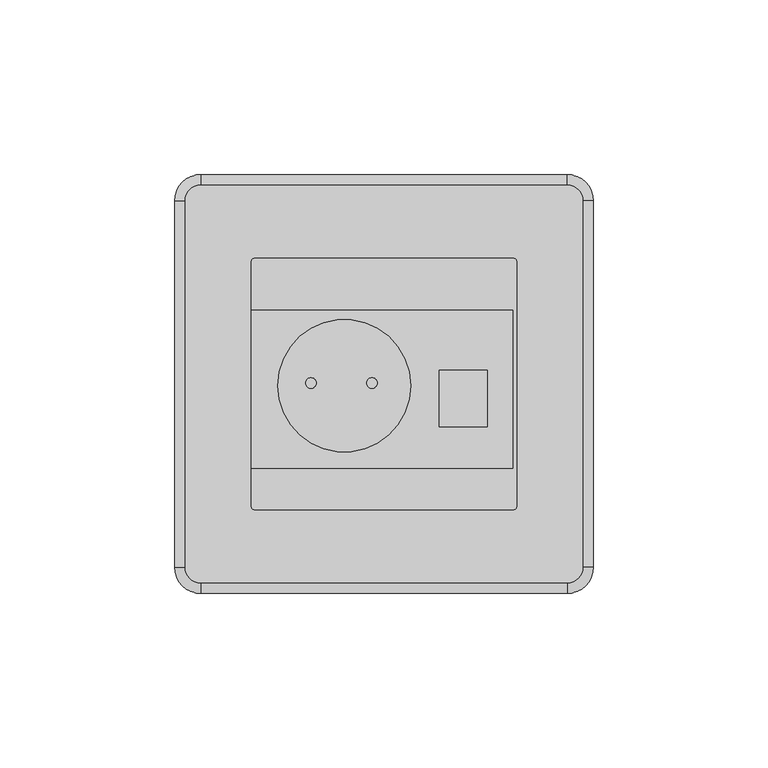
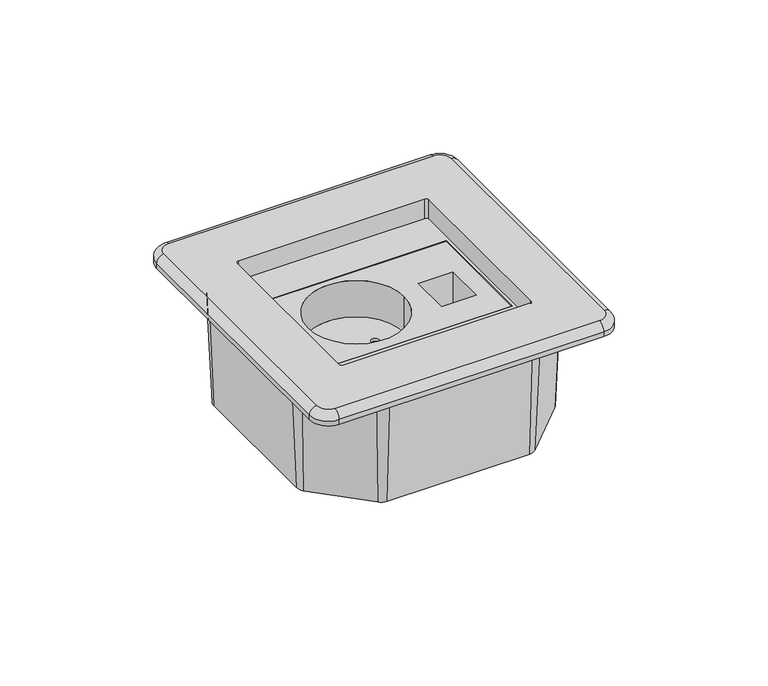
"""IFC4 building model written with IfcOpenShell, lengths in millimetres: proxy geometry, Electrical_Installation_Hager_VE-EE_Floor-socket-square-with-wing-opening : Floor socket square single a. RJ45 bronze."""

import ifcopenshell
import ifcopenshell.guid

model = None  # the IFC model being written
_history = None  # IfcOwnerHistory: only IFC2X3 demands one
_inside = {}  # id of a spatial element -> (the spatial element, [elements in it])
_under = {}  # id of a project, library or spatial element -> (it, [spatial elements below it])
_declared = {}  # id of a project -> (the project, [libraries it declares])
_typed = {}  # id of a type object -> (the type object, [elements of that type])
_made_of = {}  # id of a material, layer set ... -> (it, [elements and type objects made of it])


def new_model(schema):
    """Start an empty IFC model of exactly this schema.

    Asked for "IFC4X3", IfcOpenShell would pick the latest addendum, in which some entities
    have other attributes; the version numbers below select the first issue.
    IFC2X3 requires an IfcOwnerHistory on every rooted entity: one is made here for all.
    """
    global model, _history
    if schema == "IFC4X3":
        model = ifcopenshell.file(schema_version=(4, 3, 0, 0))
    else:
        model = ifcopenshell.file(schema=schema)
    _inside.clear()
    _under.clear()
    _declared.clear()
    _typed.clear()
    _made_of.clear()
    _history = None
    if model.schema == "IFC2X3":
        org = make("IfcOrganization", Name="unknown")
        user = make(
            "IfcPersonAndOrganization",
            ThePerson=make("IfcPerson", FamilyName="unknown"),
            TheOrganization=org,
        )
        app = make(
            "IfcApplication",
            ApplicationDeveloper=org,
            Version="unknown",
            ApplicationFullName="unknown",
            ApplicationIdentifier="unknown",
        )
        _history = make(
            "IfcOwnerHistory",
            OwningUser=user,
            OwningApplication=app,
            ChangeAction="ADDED",
            CreationDate=0,
        )
    return model


def make(cls, **values):
    """One entity of the class cls with the attributes given. An attribute that is None is left unset."""
    return model.create_entity(
        cls, **{name: value for name, value in values.items() if value is not None}
    )


def rooted(cls, **values):
    """An entity with a GlobalId (a new one), such as an element, a storey or a relation."""
    return make(cls, GlobalId=ifcopenshell.guid.new(), OwnerHistory=_history, **values)


def si_unit(unit_type, name, prefix=None):
    """IfcSIUnit, for example si_unit("LENGTHUNIT", "METRE", prefix="MILLI")."""
    return make("IfcSIUnit", UnitType=unit_type, Prefix=prefix, Name=name)


def assignment(units):
    """IfcUnitAssignment: the units of a project."""
    return None if units is None else make("IfcUnitAssignment", Units=units)


def point(xyz):
    """IfcCartesianPoint."""
    return None if xyz is None else make("IfcCartesianPoint", Coordinates=xyz)


def direction(xyz):
    """IfcDirection."""
    return None if xyz is None else make("IfcDirection", DirectionRatios=xyz)


def frame(location, z_axis=None, x_axis=None):
    """IfcAxis2Placement3D, a coordinate frame: its origin and axes. An axis left out is left unset."""
    return make(
        "IfcAxis2Placement3D",
        Location=point(location),
        Axis=direction(z_axis),
        RefDirection=direction(x_axis),
    )


def frame_2d(location, x_axis=None):
    """IfcAxis2Placement2D, a coordinate frame in the plane: its origin and x axis."""
    return make(
        "IfcAxis2Placement2D", Location=point(location), RefDirection=direction(x_axis)
    )


def origin():
    """The frame at (0, 0, 0) with its axes left unset."""
    return frame((0.0, 0.0, 0.0))


def place(relative_to, where):
    """IfcLocalPlacement: puts the frame where relative to a parent placement (None: the world)."""
    return make(
        "IfcLocalPlacement", PlacementRelTo=relative_to, RelativePlacement=where
    )


def context(
    kind, dimensions, precision=None, world=None, true_north=None, identifier=None
):
    """IfcGeometricRepresentationContext, for example the 3D "Model" context."""
    return make(
        "IfcGeometricRepresentationContext",
        ContextIdentifier=identifier,
        ContextType=kind,
        CoordinateSpaceDimension=dimensions,
        Precision=precision,
        WorldCoordinateSystem=world,
        TrueNorth=true_north,
    )


def project(units=None, contexts=None):
    """IfcProject with its units and contexts."""
    return rooted(
        "IfcProject",
        Name="project",
        RepresentationContexts=contexts,
        UnitsInContext=assignment(units),
    )


def spatial(cls, under=None, at=None, **own):
    """A site, building, storey or space (cls), placed at a placement, below another one or the project."""
    s = rooted(cls, ObjectPlacement=at, **own)
    if under is not None:
        _under.setdefault(under.id(), (under, []))[1].append(s)
    return s


def polyline(points):
    """IfcPolyline through the points."""
    return make("IfcPolyline", Points=[point(p) for p in points])


def circle_curve(where, radius):
    """IfcCircle in the frame where."""
    return make("IfcCircle", Position=where, Radius=radius)


def ellipse_curve(where, semi_axis1, semi_axis2):
    """IfcEllipse in the frame where."""
    return make(
        "IfcEllipse", Position=where, SemiAxis1=semi_axis1, SemiAxis2=semi_axis2
    )


def trimmed(basis, trim1, trim2, sense, master):
    """IfcTrimmedCurve: the piece of a basis curve between two trims."""
    return make(
        "IfcTrimmedCurve",
        BasisCurve=basis,
        Trim1=trim1,
        Trim2=trim2,
        SenseAgreement=sense,
        MasterRepresentation=master,
    )


def segment(curve, same_sense, transition):
    """IfcCompositeCurveSegment."""
    return make(
        "IfcCompositeCurveSegment",
        Transition=transition,
        SameSense=same_sense,
        ParentCurve=curve,
    )


def composite_curve(segments, self_intersect=None):
    """IfcCompositeCurve: segments joined end to end."""
    return make("IfcCompositeCurve", Segments=segments, SelfIntersect=self_intersect)


def outline(outer, holes=None, kind="AREA"):
    """IfcArbitraryClosedProfileDef: a profile drawn as a closed curve; with holes, ...WithVoids."""
    if holes is None:
        return make("IfcArbitraryClosedProfileDef", ProfileType=kind, OuterCurve=outer)
    return make(
        "IfcArbitraryProfileDefWithVoids",
        ProfileType=kind,
        OuterCurve=outer,
        InnerCurves=holes,
    )


def extrude(swept, where, along, depth):
    """IfcExtrudedAreaSolid: the profile swept, set in the frame where, extruded along a direction by depth."""
    return make(
        "IfcExtrudedAreaSolid",
        SweptArea=swept,
        Position=where,
        ExtrudedDirection=direction(along),
        Depth=depth,
    )


def shape(context_of_items, identifier, shape_type, items):
    """IfcShapeRepresentation: the items that make up one representation, for example the "Body"."""
    return make(
        "IfcShapeRepresentation",
        ContextOfItems=context_of_items,
        RepresentationIdentifier=identifier,
        RepresentationType=shape_type,
        Items=items,
    )


def source(mapping_origin, context_of_items, identifier, shape_type, items):
    """IfcRepresentationMap: a shape defined once, which mapped items show again and again."""
    return make(
        "IfcRepresentationMap",
        MappingOrigin=mapping_origin,
        MappedRepresentation=shape(context_of_items, identifier, shape_type, items),
    )


def transform(
    local_origin,
    x_axis=None,
    y_axis=None,
    z_axis=None,
    scale=None,
    scale2=None,
    scale3=None,
    uniform=True,
):
    """IfcCartesianTransformationOperator3D, or its non-uniform kind. x_axis, y_axis, z_axis: its Axis1, 2, 3."""
    if uniform:
        return make(
            "IfcCartesianTransformationOperator3D",
            Axis1=direction(x_axis),
            Axis2=direction(y_axis),
            LocalOrigin=point(local_origin),
            Scale=scale,
            Axis3=direction(z_axis),
        )
    return make(
        "IfcCartesianTransformationOperator3DnonUniform",
        Axis1=direction(x_axis),
        Axis2=direction(y_axis),
        LocalOrigin=point(local_origin),
        Scale=scale,
        Axis3=direction(z_axis),
        Scale2=scale2,
        Scale3=scale3,
    )


def mapped(mapping_source, mapping_target):
    """IfcMappedItem: shows the shape of a source again, moved by a transform."""
    return make(
        "IfcMappedItem", MappingSource=mapping_source, MappingTarget=mapping_target
    )


def made_of(thing, what):
    """Note that an element or type object is made of a material, layer set ...; save() writes the relation."""
    if what is not None:
        _made_of.setdefault(what.id(), (what, []))[1].append(thing)
    return thing


def element(
    cls,
    number,
    at=None,
    inside=None,
    cuts=None,
    type_object=None,
    material=None,
    context=None,
    identifier="Body",
    shape_type=None,
    held_by="IfcProductDefinitionShape",
    body=None,
    shapes=None,
    **own,
):
    """One element of the class cls, such as IfcWall. Its Tag is "e" and its number.

    at: its placement. inside: the storey or other place that contains it. cuts: it is an
    opening in that element (IfcRelVoidsElement). A single representation is given by context,
    identifier, shape_type and body (its items); several are given by shapes. held_by: the class
    of the entity that holds the representations. save() writes the other relations.
    """
    e = rooted(cls, Tag="e%d" % number, ObjectPlacement=at, **own)
    if body is not None:
        shapes = [shape(context, identifier, shape_type, body)]
    if shapes is not None:
        e.Representation = make(held_by, Representations=shapes)
    if inside is not None:
        _inside.setdefault(inside.id(), (inside, []))[1].append(e)
    if cuts is not None:
        rooted(
            "IfcRelVoidsElement", RelatingBuildingElement=cuts, RelatedOpeningElement=e
        )
    if type_object is not None:
        _typed.setdefault(type_object.id(), (type_object, []))[1].append(e)
    return made_of(e, material)


def aggregate(whole, parts):
    """IfcRelAggregates: a whole, such as a stair, and the parts it consists of."""
    return rooted("IfcRelAggregates", RelatingObject=whole, RelatedObjects=parts)


def save(model, path):
    """Write the relations noted so far, then the file.

    IfcRelAggregates (storeys below a building ...), IfcRelContainedInSpatialStructure (elements
    in a storey), IfcRelDefinesByType, IfcRelAssociatesMaterial and IfcRelDeclares: one each for
    every whole, place, type object, material and project.
    """
    for whole, parts in _under.values():
        aggregate(whole, parts)
    for where, things in _inside.values():
        rooted(
            "IfcRelContainedInSpatialStructure",
            RelatedElements=things,
            RelatingStructure=where,
        )
    for kind, things in _typed.values():
        rooted("IfcRelDefinesByType", RelatedObjects=things, RelatingType=kind)
    for what, things in _made_of.values():
        rooted("IfcRelAssociatesMaterial", RelatedObjects=things, RelatingMaterial=what)
    for by, libraries in _declared.values():
        rooted("IfcRelDeclares", RelatingContext=by, RelatedDefinitions=libraries)
    model.write(path)


def plane_surface(at):
    """IfcPlane: the flat surface through the origin of the frame at, square to its z axis."""
    return make("IfcPlane", Position=at)


def cylinder_surface(at, radius):
    """IfcCylindricalSurface: all points at the distance radius from the z axis of the frame at."""
    return make("IfcCylindricalSurface", Position=at, Radius=radius)


def revolved_surface(curve, axis_point, axis_direction):
    """IfcSurfaceOfRevolution: the curve turned about the line through axis_point along axis_direction."""
    return make(
        "IfcSurfaceOfRevolution",
        SweptCurve=make("IfcArbitraryOpenProfileDef", ProfileType="CURVE", Curve=curve),
        AxisPosition=make("IfcAxis1Placement", Location=point(axis_point), Axis=direction(axis_direction)),
    )


def advanced_brep(points, edges, surfaces, faces):
    """IfcAdvancedBrep: a solid bounded by faces that lie on surfaces and meet in shared edges.

    An edge is (start, end): straight between two places in points (the first is 0);
    or (start, end, curve); or (start, end, curve, False) where it runs against its curve.
    A face is (place in surfaces, loops), or (place, loops, False) where it looks against
    its surface's normal. A loop lists edges by number (the first is 1), with a minus sign
    where the edge is run from its end to its start. The first loop is the outer one.
    """
    corners = [point(p) for p in points]
    vertices = [make("IfcVertexPoint", VertexGeometry=c) for c in corners]
    made = []
    for start, end, *more in edges:
        made.append(
            make(
                "IfcEdgeCurve",
                EdgeStart=vertices[start],
                EdgeEnd=vertices[end],
                EdgeGeometry=more[0] if more else make("IfcPolyline", Points=[corners[start], corners[end]]),
                SameSense=more[1] if len(more) > 1 else True,
            )
        )
    hull = []
    for where, loops, *sense in faces:
        bounds = []
        for j, loop in enumerate(loops):
            ring = [make("IfcOrientedEdge", EdgeElement=made[abs(k) - 1], Orientation=k > 0) for k in loop]
            bounds.append(
                make(
                    "IfcFaceOuterBound" if j == 0 else "IfcFaceBound",
                    Bound=make("IfcEdgeLoop", EdgeList=ring),
                    Orientation=True,
                )
            )
        hull.append(make("IfcAdvancedFace", Bounds=bounds, FaceSurface=surfaces[where], SameSense=sense[0] if sense else True))
    return make("IfcAdvancedBrep", Outer=make("IfcClosedShell", CfsFaces=hull))


def electrical_fixtures_a87f9cbd(model_context):
    return source(origin(), model_context, "Body", "SolidModel", [
        advanced_brep(
        [(28.119958, 53.125, 0.0), (-28.432458, 53.125, 0.0), (-32.6750986, 51.3676407, 0.0), (-51.4296265, 32.6131128, 0.0), (-53.1869858, 28.3704721, 0.0), (-53.1869858, -28.3669464, 0.0), (-51.4296265, -32.6095871, 0.0), (-32.6750986, -51.3641149, 0.0), (-28.432458, -53.1214742, 0.0), (28.119958, -53.1214742, 0.0), (32.3625986, -51.3641149, 0.0), (51.1171265, -32.6095871, 0.0), (52.8744858, -28.3669464, 0.0), (52.8744858, 28.3704721, 0.0), (51.1171265, 32.6131128, 0.0), (32.3625986, 51.3676407, 0.0), (-37.0, -38.9964742, 0.0), (-39.0, -36.9964742, 0.0), (-39.0, 37.0035258, 0.0), (-37.0, 39.0035258, 0.0), (37.0, 39.0035258, 0.0), (39.0, 37.0035258, 0.0), (39.0, -36.9964742, 0.0), (37.0, -38.9964742, 0.0), (28.119958, 51.125, -46.2240608), (30.9483851, 49.9534271, -46.2240608), (49.7029129, 31.1988993, -46.2240608), (50.8744858, 28.3704721, -46.2240608), (50.8744858, -28.3669464, -46.2240608), (49.7029129, -31.1953735, -46.2240608), (30.9483851, -49.9499014, -46.2240608), (28.119958, -51.1214742, -46.2240608), (-28.432458, -51.1214742, -46.2240608), (-31.2608851, -49.9499014, -46.2240608), (-50.0154129, -31.1953735, -46.2240608), (-51.1869858, -28.3669464, -46.2240608), (-51.1869858, 28.3704721, -46.2240608), (-50.0154129, 31.1988993, -46.2240608), (-31.2608851, 49.9534271, -46.2240608), (-28.432458, 51.125, -46.2240608), (-39.0, -36.9964742, -20.2336443), (-37.0, -38.9964742, -20.2336443), (37.0, -38.9964742, -20.2336443), (39.0, -36.9964742, -20.2336443), (39.0, 37.0035258, -20.2336443), (37.0, 39.0035258, -20.2336443), (-37.0, 39.0035258, -20.2336443), (-39.0, 37.0035258, -20.2336443)],
        [
            (0, 1),
            (1, 2, circle_curve(frame((-28.432458, 47.125, 0.0), z_axis=(0.0, 0.0, 1.0), x_axis=(0.0, 1.0, 0.0)), 6.0)),
            (2, 3),
            (3, 4, circle_curve(frame((-47.1869858, 28.3704721, 0.0), z_axis=(0.0, 0.0, 1.0), x_axis=(-0.7071067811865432, 0.7071067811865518, 0.0)), 6.0)),
            (4, 5),
            (5, 6, circle_curve(frame((-47.1869858, -28.3669464, 0.0), z_axis=(0.0, 0.0, 1.0), x_axis=(-1.0, 0.0, 0.0)), 6.0)),
            (6, 7),
            (7, 8, circle_curve(frame((-28.432458, -47.1214742, 0.0), z_axis=(0.0, 0.0, 1.0), x_axis=(-0.7071067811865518, -0.7071067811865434, 0.0)), 6.0)),
            (8, 9),
            (9, 10, circle_curve(frame((28.119958, -47.1214742, 0.0), z_axis=(0.0, 0.0, 1.0), x_axis=(0.0, -1.0, 0.0)), 6.0)),
            (10, 11),
            (11, 12, circle_curve(frame((46.8744858, -28.3669464, 0.0), z_axis=(0.0, 0.0, 1.0), x_axis=(0.7071067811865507, -0.7071067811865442, 0.0)), 6.0)),
            (12, 13),
            (13, 14, circle_curve(frame((46.8744858, 28.3704721, 0.0), z_axis=(0.0, 0.0, 1.0), x_axis=(1.0, 0.0, 0.0)), 6.0)),
            (14, 15),
            (15, 0, circle_curve(frame((28.119958, 47.125, 0.0), z_axis=(0.0, 0.0, 1.0), x_axis=(0.7071067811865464, 0.7071067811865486, 0.0)), 6.0)),
            (16, 17, circle_curve(frame((-37.0, -36.9964742, 0.0), z_axis=(0.0, 0.0, -1.0), x_axis=(1.0, 0.0, 0.0)), 2.0)),
            (17, 18),
            (18, 19, circle_curve(frame((-37.0, 37.0035258, 0.0), z_axis=(0.0, 0.0, -1.0), x_axis=(1.0, 0.0, 0.0)), 2.0)),
            (19, 20),
            (20, 21, circle_curve(frame((37.0, 37.0035258, 0.0), z_axis=(0.0, 0.0, -1.0), x_axis=(-1.0, 0.0, 0.0)), 2.0)),
            (21, 22),
            (22, 23, circle_curve(frame((37.0, -36.9964742, 0.0), z_axis=(0.0, 0.0, -1.0), x_axis=(1.0, 0.0, 0.0)), 2.0)),
            (23, 16),
            (24, 25, circle_curve(frame((28.119958, 47.125, -46.2240608), z_axis=(0.0, 0.0, -1.0), x_axis=(0.7071067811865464, 0.7071067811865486, 0.0)), 4.0)),
            (25, 26),
            (26, 27, circle_curve(frame((46.8744858, 28.3704721, -46.2240608), z_axis=(0.0, 0.0, -1.0), x_axis=(1.0, 0.0, 0.0)), 4.0)),
            (27, 28),
            (28, 29, circle_curve(frame((46.8744858, -28.3669464, -46.2240608), z_axis=(0.0, 0.0, -1.0), x_axis=(0.7071067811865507, -0.7071067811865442, 0.0)), 4.0)),
            (29, 30),
            (30, 31, circle_curve(frame((28.119958, -47.1214742, -46.2240608), z_axis=(0.0, 0.0, -1.0), x_axis=(0.0, -1.0, 0.0)), 4.0)),
            (31, 32),
            (32, 33, circle_curve(frame((-28.432458, -47.1214742, -46.2240608), z_axis=(0.0, 0.0, -1.0), x_axis=(-0.7071067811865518, -0.7071067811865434, 0.0)), 4.0)),
            (33, 34),
            (34, 35, circle_curve(frame((-47.1869858, -28.3669464, -46.2240608), z_axis=(0.0, 0.0, -1.0), x_axis=(-1.0, 0.0, 0.0)), 4.0)),
            (35, 36),
            (36, 37, circle_curve(frame((-47.1869858, 28.3704721, -46.2240608), z_axis=(0.0, 0.0, -1.0), x_axis=(-0.7071067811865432, 0.7071067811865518, 0.0)), 4.0)),
            (37, 38),
            (38, 39, circle_curve(frame((-28.432458, 47.125, -46.2240608), z_axis=(0.0, 0.0, -1.0), x_axis=(0.0, 1.0, 0.0)), 4.0)),
            (39, 24),
            (0, 24),
            (39, 1),
            (38, 2),
            (37, 3),
            (36, 4),
            (35, 5),
            (34, 6),
            (33, 7),
            (32, 8),
            (31, 9),
            (30, 10),
            (29, 11),
            (28, 12),
            (27, 13),
            (26, 14),
            (25, 15),
            (40, 41, circle_curve(frame((-37.0, -36.9964742, -20.2336443), z_axis=(0.0, 0.0, 1.0), x_axis=(1.0, 0.0, 0.0)), 2.0)),
            (41, 42),
            (42, 43, circle_curve(frame((37.0, -36.9964742, -20.2336443), z_axis=(0.0, 0.0, 1.0), x_axis=(1.0, 0.0, 0.0)), 2.0)),
            (43, 44),
            (44, 45, circle_curve(frame((37.0, 37.0035258, -20.2336443), z_axis=(0.0, 0.0, 1.0), x_axis=(-1.0, 0.0, 0.0)), 2.0)),
            (45, 46),
            (46, 47, circle_curve(frame((-37.0, 37.0035258, -20.2336443), z_axis=(0.0, 0.0, 1.0), x_axis=(1.0, 0.0, 0.0)), 2.0)),
            (47, 40),
            (40, 17),
            (16, 41),
            (23, 42),
            (22, 43),
            (21, 44),
            (20, 45),
            (19, 46),
            (18, 47),
        ],
        [
            plane_surface(frame((-0.15625, 0.0017629, 0.0), z_axis=(0.0, 0.0, 1.0), x_axis=(-0.7071067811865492, -0.7071067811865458, 0.0))),
            plane_surface(frame((-0.15625, 0.0017629, -46.2240608), z_axis=(0.0, 0.0, -1.0), x_axis=(-1.0, 0.0, 0.0))),
            plane_surface(frame((-0.15625, 51.125, -46.2240608), z_axis=(0.0, 0.999065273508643, -0.04322706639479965), x_axis=(-1.0, 0.0, 0.0))),
            revolved_surface(polyline([(-31.26088506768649, 49.95342713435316, -46.22406079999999), (-32.6750986, 51.3676407, 0.0)]), (-28.432458, 47.125, -138.6721825), (0.0, 0.0, 1.0)),
            plane_surface(frame((-40.638149, 40.5761632, -46.2240608), z_axis=(-0.7064458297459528, 0.7064458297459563, -0.043227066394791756), x_axis=(-0.7071067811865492, -0.7071067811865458, 0.0))),
            revolved_surface(polyline([(-51.186985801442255, 28.3704721, -46.22406079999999), (-53.1869858, 28.3704721, 0.0)]), (-47.1869858, 28.3704721, -138.6721825), (0.0, 0.0, 1.0)),
            plane_surface(frame((-51.1869858, 0.0017629, -46.2240608), z_axis=(-0.9990652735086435, 0.0, -0.043227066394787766), x_axis=(0.0, -1.0, 0.0))),
            revolved_surface(polyline([(-50.01541293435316, -31.19537353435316, -46.22406079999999), (-51.4296265, -32.6095871, 0.0)]), (-47.1869858, -28.3669464, -138.6721825), (0.0, 0.0, 1.0)),
            plane_surface(frame((-40.638149, -40.5726374, -46.2240608), z_axis=(-0.7064458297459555, -0.7064458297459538, -0.04322706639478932), x_axis=(0.7071067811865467, -0.7071067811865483, 0.0))),
            revolved_surface(polyline([(-28.432458, -51.121474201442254, -46.22406079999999), (-28.432458, -53.1214742, 0.0)]), (-28.432458, -47.1214742, -138.6721825), (0.0, 0.0, 1.0)),
            plane_surface(frame((-0.15625, -51.1214742, -46.2240608), z_axis=(0.0, -0.9990652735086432, -0.0432270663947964), x_axis=(1.0, 0.0, 0.0))),
            revolved_surface(polyline([(30.94838506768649, -49.94990133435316, -46.22406079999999), (32.3625986, -51.3641149, 0.0)]), (28.119958, -47.1214742, -138.6721825), (0.0, 0.0, 1.0)),
            plane_surface(frame((40.325649, -40.5726374, -46.2240608), z_axis=(0.7064458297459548, -0.7064458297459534, -0.04322706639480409), x_axis=(0.7071067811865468, 0.7071067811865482, 0.0))),
            revolved_surface(polyline([(50.874485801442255, -28.3669464, -46.22406079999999), (52.8744858, -28.3669464, 0.0)]), (46.8744858, -28.3669464, -138.6721825), (0.0, 0.0, 1.0)),
            plane_surface(frame((50.8744858, 0.0017629, -46.2240608), z_axis=(0.9990652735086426, 0.0, -0.043227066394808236), x_axis=(0.0, 1.0, 0.0))),
            revolved_surface(polyline([(49.70291293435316, 31.19889923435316, -46.22406079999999), (51.1171265, 32.6131128, 0.0)]), (46.8744858, 28.3704721, -138.6721825), (0.0, 0.0, 1.0)),
            plane_surface(frame((40.325649, 40.5761632, -46.2240608), z_axis=(0.7064458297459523, 0.7064458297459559, -0.043227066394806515), x_axis=(-0.7071067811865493, 0.7071067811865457, 0.0))),
            revolved_surface(polyline([(28.119958, 51.12500000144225, -46.22406079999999), (28.119958, 53.125, 0.0)]), (28.119958, 47.125, -138.6721825), (0.0, 0.0, 1.0)),
            plane_surface(frame((-35.0, -36.9964742, -20.2336443), z_axis=(0.0, 0.0, 1.0), x_axis=(0.0, -1.0, 0.0))),
            revolved_surface(polyline([(-35.0, -36.9964742, 0.0), (-35.0, -36.9964742, -20.2336443)]), (-37.0, -36.9964742, -20.2336443), (0.0, 0.0, 1.0)),
            plane_surface(frame((-37.0, -38.9964742, 8.0), z_axis=(0.0, 1.0, 0.0), x_axis=(0.0, 0.0, -1.0))),
            revolved_surface(polyline([(39.0, -36.9964742, 0.0), (39.0, -36.9964742, -20.2336443)]), (37.0, -36.9964742, -20.2336443), (0.0, 0.0, 1.0)),
            plane_surface(frame((39.0, -36.9964742, 8.0), z_axis=(-1.0, 0.0, 0.0), x_axis=(0.0, 0.0, -1.0))),
            revolved_surface(polyline([(35.0, 37.0035258, 0.0), (35.0, 37.0035258, -20.2336443)]), (37.0, 37.0035258, -20.2336443), (0.0, 0.0, 1.0)),
            plane_surface(frame((37.0, 39.0035258, 8.0), z_axis=(0.0, -1.0, 0.0), x_axis=(0.0, 0.0, -1.0))),
            revolved_surface(polyline([(-35.0, 37.0035258, 0.0), (-35.0, 37.0035258, -20.2336443)]), (-37.0, 37.0035258, -20.2336443), (0.0, 0.0, 1.0)),
            plane_surface(frame((-39.0, 37.0035258, 8.0), z_axis=(1.0, 0.0, 0.0), x_axis=(0.0, 0.0, -1.0))),
        ],
        [
            (0, [[1, 2, 3, 4, 5, 6, 7, 8, 9, 10, 11, 12, 13, 14, 15, 16], [17, 18, 19, 20, 21, 22, 23, 24]]),
            (1, [[25, 26, 27, 28, 29, 30, 31, 32, 33, 34, 35, 36, 37, 38, 39, 40]]),
            (2, [[-1, 41, -40, 42]]),
            (3, [[-2, -42, -39, 43]]),
            (4, [[-3, -43, -38, 44]]),
            (5, [[-4, -44, -37, 45]]),
            (6, [[-5, -45, -36, 46]]),
            (7, [[-6, -46, -35, 47]]),
            (8, [[-7, -47, -34, 48]]),
            (9, [[-8, -48, -33, 49]]),
            (10, [[-9, -49, -32, 50]]),
            (11, [[-10, -50, -31, 51]]),
            (12, [[-11, -51, -30, 52]]),
            (13, [[-12, -52, -29, 53]]),
            (14, [[-13, -53, -28, 54]]),
            (15, [[-14, -54, -27, 55]]),
            (16, [[-15, -55, -26, 56]]),
            (17, [[-16, -56, -25, -41]]),
            (18, [[57, 58, 59, 60, 61, 62, 63, 64]]),
            (19, [[-57, 65, -17, 66]]),
            (20, [[-58, -66, -24, 67]]),
            (21, [[-59, -67, -23, 68]]),
            (22, [[-60, -68, -22, 69]]),
            (23, [[-61, -69, -21, 70]]),
            (24, [[-62, -70, -20, 71]]),
            (25, [[-63, -71, -19, 72]]),
            (26, [[-64, -72, -18, -65]]),
        ],
    ),
        extrude(outline(composite_curve([segment(trimmed(circle_curve(frame_2d((37.0, 37.0035258)), 2.0), [point((37.0, 39.0035258))], [point((39.0, 37.0035258))], False, "CARTESIAN"), True, "CONTINUOUS"), segment(polyline([(39.0, 37.0035258), (39.0, -36.9964742)]), True, "CONTINUOUS"), segment(trimmed(circle_curve(frame_2d((37.0, -36.9964742)), 2.0), [point((39.0, -36.9964742))], [point((37.0, -38.9964742))], False, "CARTESIAN"), True, "CONTINUOUS"), segment(polyline([(37.0, -38.9964742), (-37.0, -38.9964742)]), True, "CONTINUOUS"), segment(trimmed(circle_curve(frame_2d((-37.0, -36.9964742)), 2.0), [point((-37.0, -38.9964742))], [point((-39.0, -36.9964742))], False, "CARTESIAN"), True, "CONTINUOUS"), segment(polyline([(-39.0, -36.9964742), (-39.0, 37.0035258)]), True, "CONTINUOUS"), segment(trimmed(circle_curve(frame_2d((-37.0, 37.0035258)), 2.0), [point((-39.0, 37.0035258))], [point((-37.0, 39.0035258))], False, "CARTESIAN"), True, "CONTINUOUS"), segment(polyline([(-37.0, 39.0035258), (37.0, 39.0035258)]), True, "CONTINUOUS")], self_intersect=False), holes=[polyline([(-38.1, 21.2057239), (-38.1, -24.0663153), (36.9, -24.0663153), (36.9, 21.2057239), (-38.1, 21.2057239)])]), frame((0.0, 0.0, -21.8596111), z_axis=(0.0, 0.0, 1.0), x_axis=(1.0, 0.0, 0.0)), (0.0, 0.0, 1.0), 18.3596111),
        advanced_brep(
        [(36.9, 21.2057239, -3.5), (36.9, 21.2057239, -42.943951), (-38.1, 21.2057239, -42.943951), (-38.1, 21.2057239, -3.5), (36.9, -24.0663153, -3.5), (-38.1, -24.0663153, -3.5), (-38.1, -24.0663153, -42.943951), (36.9, -24.0663153, -42.943951), (-30.3664952, -0.4591414, -3.5), (7.6335048, -0.4591414, -3.5), (15.77713, 3.9225293, -3.5), (29.52713, 3.9225293, -3.5), (29.52713, -12.2180818, -3.5), (15.77713, -12.2180818, -3.5), (7.6335048, -0.4591414, -18.7239921), (-30.3664952, -0.4591414, -18.7239921), (-22.4382418, 0.3075542, -18.7239921), (-19.4382418, 0.3075542, -18.7239921), (-4.9382418, 0.3075542, -18.7239921), (-1.9382418, 0.3075542, -18.7239921), (29.52713, 3.9225293, -18.7239921), (15.77713, 3.9225293, -18.7239921), (15.77713, -12.2180818, -18.7239921), (29.52713, -12.2180818, -18.7239921), (-19.4382418, 0.3075542, -35.8526867), (-22.4382418, 0.3075542, -35.8526867), (-1.9382418, 0.3075542, -35.8526867), (-4.9382418, 0.3075542, -35.8526867)],
        [
            (0, 1),
            (1, 2),
            (2, 3),
            (3, 0),
            (4, 5),
            (5, 6),
            (6, 7),
            (7, 4),
            (0, 4),
            (7, 1),
            (6, 2),
            (5, 3),
            (8, 9, circle_curve(frame((-11.3664952, -0.4591414, -3.5), z_axis=(0.0, 0.0, -1.0), x_axis=(-1.0, 0.0, 0.0)), 19.0)),
            (9, 8, circle_curve(frame((-11.3664952, -0.4591414, -3.5), z_axis=(0.0, 0.0, -1.0), x_axis=(-1.0, 0.0, 0.0)), 19.0)),
            (10, 11),
            (11, 12),
            (12, 13),
            (13, 10),
            (14, 15, circle_curve(frame((-11.3664952, -0.4591414, -18.7239921), z_axis=(0.0, 0.0, 1.0), x_axis=(-1.0, 0.0, 0.0)), 19.0)),
            (15, 14, circle_curve(frame((-11.3664952, -0.4591414, -18.7239921), z_axis=(0.0, 0.0, 1.0), x_axis=(-1.0, 0.0, 0.0)), 19.0)),
            (16, 17, circle_curve(frame((-20.9382418, 0.3075542, -18.7239921), z_axis=(0.0, 0.0, -1.0), x_axis=(-1.0, 0.0, 0.0)), 1.5)),
            (17, 16, circle_curve(frame((-20.9382418, 0.3075542, -18.7239921), z_axis=(0.0, 0.0, -1.0), x_axis=(-1.0, 0.0, 0.0)), 1.5)),
            (18, 19, circle_curve(frame((-3.4382418, 0.3075542, -18.7239921), z_axis=(0.0, 0.0, -1.0), x_axis=(-1.0, 0.0, 0.0)), 1.5)),
            (19, 18, circle_curve(frame((-3.4382418, 0.3075542, -18.7239921), z_axis=(0.0, 0.0, -1.0), x_axis=(-1.0, 0.0, 0.0)), 1.5)),
            (20, 21),
            (21, 22),
            (22, 23),
            (23, 20),
            (14, 9),
            (8, 15),
            (20, 11),
            (10, 21),
            (13, 22),
            (12, 23),
            (24, 25, circle_curve(frame((-20.9382418, 0.3075542, -35.8526867), z_axis=(0.0, 0.0, 1.0), x_axis=(-1.0, 0.0, 0.0)), 1.5)),
            (25, 24, circle_curve(frame((-20.9382418, 0.3075542, -35.8526867), z_axis=(0.0, 0.0, 1.0), x_axis=(-1.0, 0.0, 0.0)), 1.5)),
            (26, 27, circle_curve(frame((-3.4382418, 0.3075542, -35.8526867), z_axis=(0.0, 0.0, 1.0), x_axis=(-1.0, 0.0, 0.0)), 1.5)),
            (27, 26, circle_curve(frame((-3.4382418, 0.3075542, -35.8526867), z_axis=(0.0, 0.0, 1.0), x_axis=(-1.0, 0.0, 0.0)), 1.5)),
            (24, 17),
            (16, 25),
            (26, 19),
            (18, 27),
        ],
        [
            plane_surface(frame((36.9, 21.2057239, -42.943951), z_axis=(0.0, 1.0, 0.0), x_axis=(0.0, 0.0, -1.0))),
            plane_surface(frame((36.9, -24.0663153, -42.943951), z_axis=(0.0, -1.0, 0.0), x_axis=(0.0, 0.0, 1.0))),
            plane_surface(frame((36.9, 21.2057239, -3.5), z_axis=(1.0, 0.0, 0.0), x_axis=(0.0, -1.0, 0.0))),
            plane_surface(frame((36.9, 21.2057239, -42.943951), z_axis=(0.0, 0.0, -1.0), x_axis=(0.0, -1.0, 0.0))),
            plane_surface(frame((-38.1, 21.2057239, -42.943951), z_axis=(-1.0, 0.0, 0.0), x_axis=(0.0, -1.0, 0.0))),
            plane_surface(frame((-38.1, 21.2057239, -3.5), z_axis=(0.0, 0.0, 1.0), x_axis=(0.0, -1.0, 0.0))),
            plane_surface(frame((-30.3664952, -0.4591414, -18.7239921), z_axis=(0.0, 0.0, 1.0), x_axis=(0.0, 1.0, 0.0))),
            revolved_surface(polyline([(-30.3664952, -0.4591414, -3.5), (-30.3664952, -0.4591414, -18.7239921)]), (-11.3664952, -0.4591414, -18.7239921), (0.0, 0.0, 1.0)),
            plane_surface(frame((29.52713, 3.9225293, -3.5), z_axis=(0.0, -1.0, 0.0), x_axis=(0.0, 0.0, -1.0))),
            plane_surface(frame((15.77713, 3.9225293, -3.5), z_axis=(1.0, 0.0, 0.0), x_axis=(0.0, 0.0, -1.0))),
            plane_surface(frame((15.77713, -12.2180818, -3.5), z_axis=(0.0, 1.0, 0.0), x_axis=(0.0, 0.0, -1.0))),
            plane_surface(frame((29.52713, -12.2180818, -3.5), z_axis=(-1.0, 0.0, 0.0), x_axis=(0.0, 0.0, -1.0))),
            plane_surface(frame((-22.4382418, 0.3075542, -35.8526867), z_axis=(0.0, 0.0, 1.0), x_axis=(0.0, 1.0, 0.0))),
            revolved_surface(polyline([(-22.4382418, 0.3075542, -18.7239921), (-22.4382418, 0.3075542, -35.8526867)]), (-20.9382418, 0.3075542, -35.8526867), (0.0, 0.0, 1.0)),
            revolved_surface(polyline([(-4.9382418, 0.3075542, -18.7239921), (-4.9382418, 0.3075542, -35.8526867)]), (-3.4382418, 0.3075542, -3.5), (0.0, 0.0, 1.0)),
        ],
        [
            (0, [[1, 2, 3, 4]]),
            (1, [[5, 6, 7, 8]]),
            (2, [[-1, 9, -8, 10]]),
            (3, [[-2, -10, -7, 11]]),
            (4, [[-3, -11, -6, 12]]),
            (5, [[-4, -12, -5, -9], [13, 14], [15, 16, 17, 18]]),
            (6, [[19, 20], [21, 22], [23, 24]]),
            (6, [[25, 26, 27, 28]]),
            (7, [[-19, 29, -13, 30]]),
            (7, [[-20, -30, -14, -29]]),
            (8, [[-25, 31, -15, 32]]),
            (9, [[-26, -32, -18, 33]]),
            (10, [[-27, -33, -17, 34]]),
            (11, [[-28, -34, -16, -31]]),
            (12, [[35, 36]]),
            (12, [[37, 38]]),
            (13, [[-35, 39, -21, 40]]),
            (13, [[-36, -40, -22, -39]]),
            (14, [[-37, 41, -23, 42]]),
            (14, [[-38, -42, -24, -41]]),
        ],
    ),
        advanced_brep(
        [(-52.5, 57.0288753, 4.9), (-57.0, 52.5288753, 4.9), (-57.0, -52.4711201, 4.9), (-52.5, -56.9711201, 4.9), (52.5, -56.9711201, 4.9), (57.0, -52.4711201, 4.9), (57.0, 52.5288753, 4.9), (52.5, 57.0288753, 4.9), (-37.0, 36.0035258, 4.9), (37.0, 36.0035258, 4.9), (38.0, 35.0035258, 4.9), (38.0, -34.9964742, 4.9), (37.0, -35.9964742, 4.9), (-37.0, -35.9964742, 4.9), (-38.0, -34.9964742, 4.9), (-38.0, 35.0035258, 4.9), (-60.0, -52.4711201, 0.0), (-60.0, 52.5288753, 0.0), (-52.5, 60.0288753, 0.0), (52.5, 60.0288753, 0.0), (60.0, 52.5288753, 0.0), (60.0, -52.4711201, 0.0), (52.5, -59.9711201, 0.0), (-52.5, -59.9711201, 0.0), (-37.0, 39.0035258, 0.0), (-39.0, 37.0035258, 0.0), (-39.0, -36.9964742, 0.0), (-37.0, -38.9964742, 0.0), (37.0, -38.9964742, 0.0), (39.0, -36.9964742, 0.0), (39.0, 37.0035258, 0.0), (37.0, 39.0035258, 0.0), (-52.5, -59.9711201, 1.9000016), (-60.0, -52.4711201, 1.9), (52.5, -59.9711201, 1.9), (60.0, -52.4711201, 1.9000016), (60.0, 52.5288753, 1.9), (52.5, 60.0288753, 1.9000016), (-52.5, 60.0288753, 1.9000016), (-60.0, 52.5288753, 1.9000016), (-37.0, 39.0035258, -5.2299774), (37.0, 39.0035258, -5.2299774), (39.0, 37.0035258, -5.2299774), (39.0, -36.9964742, -5.2299774), (37.0, -38.9964742, -5.2299774), (-37.0, -38.9964742, -5.2299774), (-39.0, -36.9964742, -5.2299774), (-39.0, 37.0035258, -5.2299774), (-37.0, 36.0035258, -5.2299774), (-38.0, 35.0035258, -5.2299774), (-38.0, -34.9964742, -5.2299774), (-37.0, -35.9964742, -5.2299774), (37.0, -35.9964742, -5.2299774), (38.0, -34.9964742, -5.2299774), (38.0, 35.0035258, -5.2299774), (37.0, 36.0035258, -5.2299774)],
        [
            (0, 1, circle_curve(frame((-52.5, 52.5288753, 4.9), z_axis=(0.0, 0.0, 1.0), x_axis=(0.0, 1.0, 0.0)), 4.5)),
            (1, 2),
            (2, 3, circle_curve(frame((-52.5, -52.4711201, 4.9), z_axis=(0.0, 0.0, 1.0), x_axis=(-1.0, 0.0, 0.0)), 4.5)),
            (3, 4),
            (4, 5, circle_curve(frame((52.5, -52.4711201, 4.9), z_axis=(0.0, 0.0, 1.0), x_axis=(0.0, -1.0, 0.0)), 4.5)),
            (5, 6),
            (6, 7, circle_curve(frame((52.5, 52.5288753, 4.9), z_axis=(0.0, 0.0, 1.0), x_axis=(1.0, 0.0, 0.0)), 4.5)),
            (7, 0),
            (8, 9),
            (9, 10, circle_curve(frame((37.0, 35.0035258, 4.9), z_axis=(0.0, 0.0, -1.0), x_axis=(1.0, 0.0, 0.0)), 1.0)),
            (10, 11),
            (11, 12, circle_curve(frame((37.0, -34.9964742, 4.9), z_axis=(0.0, 0.0, -1.0), x_axis=(1.0, 0.0, 0.0)), 1.0)),
            (12, 13),
            (13, 14, circle_curve(frame((-37.0, -34.9964742, 4.9), z_axis=(0.0, 0.0, -1.0), x_axis=(1.0, 0.0, 0.0)), 1.0)),
            (14, 15),
            (15, 8, circle_curve(frame((-37.0, 35.0035258, 4.9), z_axis=(0.0, 0.0, -1.0), x_axis=(1.0, 0.0, 0.0)), 1.0)),
            (16, 17),
            (17, 18, circle_curve(frame((-52.5, 52.5288753, 0.0), z_axis=(0.0, 0.0, -1.0), x_axis=(1.0, 0.0, 0.0)), 7.5)),
            (18, 19),
            (19, 20, circle_curve(frame((52.5, 52.5288753, 0.0), z_axis=(0.0, 0.0, -1.0), x_axis=(1.0, 0.0, 0.0)), 7.5)),
            (20, 21),
            (21, 22, circle_curve(frame((52.5, -52.4711201, 0.0), z_axis=(0.0, 0.0, -1.0), x_axis=(1.0, 0.0, 0.0)), 7.5)),
            (22, 23),
            (23, 16, circle_curve(frame((-52.5, -52.4711201, 0.0), z_axis=(0.0, 0.0, -1.0), x_axis=(1.0, 0.0, 0.0)), 7.5)),
            (24, 25, circle_curve(frame((-37.0, 37.0035258, 0.0), z_axis=(0.0, 0.0, 1.0), x_axis=(1.0, 0.0, 0.0)), 2.0)),
            (25, 26),
            (26, 27, circle_curve(frame((-37.0, -36.9964742, 0.0), z_axis=(0.0, 0.0, 1.0), x_axis=(1.0, 0.0, 0.0)), 2.0)),
            (27, 28),
            (28, 29, circle_curve(frame((37.0, -36.9964742, 0.0), z_axis=(0.0, 0.0, 1.0), x_axis=(1.0, 0.0, 0.0)), 2.0)),
            (29, 30),
            (30, 31, circle_curve(frame((37.0, 37.0035258, 0.0), z_axis=(0.0, 0.0, 1.0), x_axis=(1.0, 0.0, 0.0)), 2.0)),
            (31, 24),
            (23, 32),
            (32, 33, circle_curve(frame((-52.5, -52.4711201, 1.9), z_axis=(0.0, 0.0, -1.0), x_axis=(1.0, 0.0, 0.0)), 7.5)),
            (33, 16),
            (22, 34),
            (34, 32),
            (21, 35),
            (35, 34, circle_curve(frame((52.5, -52.4711201, 1.9), z_axis=(0.0, 0.0, -1.0), x_axis=(1.0, 0.0, 0.0)), 7.5)),
            (20, 36),
            (36, 35),
            (19, 37),
            (37, 36, circle_curve(frame((52.5, 52.5288753, 1.9), z_axis=(0.0, 0.0, -1.0), x_axis=(1.0, 0.0, 0.0)), 7.5)),
            (18, 38),
            (38, 37),
            (17, 39),
            (39, 38, circle_curve(frame((-52.5, 52.5288753, 1.9), z_axis=(0.0, 0.0, -1.0), x_axis=(1.0, 0.0, 0.0)), 7.5)),
            (33, 39),
            (39, 1, circle_curve(frame((-57.0, 52.5288753, 1.9), z_axis=(0.0, 1.0, 0.0), x_axis=(1.0, 0.0, 0.0)), 3.0)),
            (0, 38, circle_curve(frame((-52.5, 57.0288753, 1.9), z_axis=(-1.0, 0.0, 0.0), x_axis=(0.0, -1.0, 0.0)), 3.0)),
            (33, 2, circle_curve(frame((-57.0, -52.4711201, 1.9), z_axis=(0.0, 1.0, 0.0), x_axis=(1.0, 0.0, 0.0)), 3.0)),
            (32, 3, circle_curve(frame((-52.5, -56.9711201, 1.9), z_axis=(-1.0, 0.0, 0.0), x_axis=(0.0, 1.0, 0.0)), 3.0)),
            (34, 4, circle_curve(frame((52.5, -56.9711201, 1.9), z_axis=(-1.0, 0.0, 0.0), x_axis=(0.0, 1.0, 0.0)), 3.0)),
            (35, 5, circle_curve(frame((57.0, -52.4711201, 1.9), z_axis=(0.0, -1.0, 0.0), x_axis=(-1.0, 0.0, 0.0)), 3.0)),
            (36, 6, circle_curve(frame((57.0, 52.5288753, 1.9), z_axis=(0.0, -1.0, 0.0), x_axis=(-1.0, 0.0, 0.0)), 3.0)),
            (37, 7, circle_curve(frame((52.5, 57.0288753, 1.9), z_axis=(1.0, 0.0, 0.0), x_axis=(0.0, -1.0, 0.0)), 3.0)),
            (40, 41),
            (41, 42, circle_curve(frame((37.0, 37.0035258, -5.2299774), z_axis=(0.0, 0.0, -1.0), x_axis=(1.0, 0.0, 0.0)), 2.0)),
            (42, 43),
            (43, 44, circle_curve(frame((37.0, -36.9964742, -5.2299774), z_axis=(0.0, 0.0, -1.0), x_axis=(1.0, 0.0, 0.0)), 2.0)),
            (44, 45),
            (45, 46, circle_curve(frame((-37.0, -36.9964742, -5.2299774), z_axis=(0.0, 0.0, -1.0), x_axis=(1.0, 0.0, 0.0)), 2.0)),
            (46, 47),
            (47, 40, circle_curve(frame((-37.0, 37.0035258, -5.2299774), z_axis=(0.0, 0.0, -1.0), x_axis=(1.0, 0.0, 0.0)), 2.0)),
            (48, 49, circle_curve(frame((-37.0, 35.0035258, -5.2299774), z_axis=(0.0, 0.0, 1.0), x_axis=(1.0, 0.0, 0.0)), 1.0)),
            (49, 50),
            (50, 51, circle_curve(frame((-37.0, -34.9964742, -5.2299774), z_axis=(0.0, 0.0, 1.0), x_axis=(1.0, 0.0, 0.0)), 1.0)),
            (51, 52),
            (52, 53, circle_curve(frame((37.0, -34.9964742, -5.2299774), z_axis=(0.0, 0.0, 1.0), x_axis=(1.0, 0.0, 0.0)), 1.0)),
            (53, 54),
            (54, 55, circle_curve(frame((37.0, 35.0035258, -5.2299774), z_axis=(0.0, 0.0, 1.0), x_axis=(1.0, 0.0, 0.0)), 1.0)),
            (55, 48),
            (15, 49),
            (48, 8),
            (14, 50),
            (13, 51),
            (12, 52),
            (11, 53),
            (10, 54),
            (9, 55),
            (47, 25),
            (24, 40),
            (46, 26),
            (45, 27),
            (44, 28),
            (43, 29),
            (42, 30),
            (41, 31),
        ],
        [
            plane_surface(frame((-35.0, 37.0035258, 4.9), z_axis=(0.0, 0.0, 1.0), x_axis=(0.0, -1.0, 0.0))),
            plane_surface(frame((-35.0, 37.0035258, 0.0), z_axis=(0.0, 0.0, -1.0), x_axis=(0.0, 1.0, 0.0))),
            cylinder_surface(frame((-52.5, -52.4711201, 0.0), z_axis=(0.0, 0.0, 1.0), x_axis=(1.0, 0.0, 0.0)), 7.5),
            plane_surface(frame((-52.5, -59.9711201, 4.9), z_axis=(0.0, -1.0, 0.0), x_axis=(0.0, 0.0, -1.0))),
            cylinder_surface(frame((52.5, -52.4711201, 0.0), z_axis=(0.0, 0.0, 1.0), x_axis=(1.0, 0.0, 0.0)), 7.5),
            plane_surface(frame((60.0, -52.4711201, 4.9), z_axis=(1.0, 0.0, 0.0), x_axis=(0.0, 0.0, -1.0))),
            cylinder_surface(frame((52.5, 52.5288753, 0.0), z_axis=(0.0, 0.0, 1.0), x_axis=(1.0, 0.0, 0.0)), 7.5),
            plane_surface(frame((52.5, 60.0288753, 4.9), z_axis=(0.0, 1.0, 0.0), x_axis=(0.0, 0.0, -1.0))),
            cylinder_surface(frame((-52.5, 52.5288753, 0.0), z_axis=(0.0, 0.0, 1.0), x_axis=(1.0, 0.0, 0.0)), 7.5),
            plane_surface(frame((-60.0, 52.5288753, 4.9), z_axis=(-1.0, 0.0, 0.0), x_axis=(0.0, 0.0, -1.0))),
            revolved_surface(trimmed(ellipse_curve(frame((-52.5, 57.0288753, 1.9), z_axis=(1.0, 0.0, 0.0), x_axis=(0.0, -1.0, 0.0)), 3.0, 3.0), [point((-52.5, 60.0288753, 1.9))], [point((-52.5, 57.0288753, 4.9))], True, "CARTESIAN"), (-52.5, 52.5288753, 0.0), (0.0, 0.0, 1.0)),
            cylinder_surface(frame((-57.0, 52.5288753, 1.9), z_axis=(0.0, -1.0, 0.0), x_axis=(1.0, 0.0, 0.0)), 3.0),
            revolved_surface(trimmed(ellipse_curve(frame((-57.0, -52.4711201, 1.9), z_axis=(0.0, 1.0, 0.0), x_axis=(1.0, 0.0, 0.0)), 3.0, 3.0), [point((-60.0, -52.4711201, 1.9))], [point((-57.0, -52.4711201, 4.9))], True, "CARTESIAN"), (-52.5, -52.4711201, 0.0), (0.0, 0.0, 1.0)),
            cylinder_surface(frame((-52.5, -56.9711201, 1.9), z_axis=(1.0, 0.0, 0.0), x_axis=(0.0, 1.0, 0.0)), 3.0),
            revolved_surface(trimmed(ellipse_curve(frame((52.5, -56.9711201, 1.9), z_axis=(-1.0, 0.0, 0.0), x_axis=(0.0, 1.0, 0.0)), 3.0, 3.0), [point((52.5, -59.9711201, 1.9))], [point((52.5, -56.9711201, 4.9))], True, "CARTESIAN"), (52.5, -52.4711201, 0.0), (0.0, 0.0, 1.0)),
            cylinder_surface(frame((57.0, -52.4711201, 1.9), z_axis=(0.0, 1.0, 0.0), x_axis=(-1.0, 0.0, 0.0)), 3.0),
            revolved_surface(trimmed(ellipse_curve(frame((57.0, 52.5288753, 1.9), z_axis=(0.0, -1.0, 0.0), x_axis=(-1.0, 0.0, 0.0)), 3.0, 3.0), [point((60.0, 52.5288753, 1.9))], [point((57.0, 52.5288753, 4.9))], True, "CARTESIAN"), (52.5, 52.5288753, 0.0), (0.0, 0.0, 1.0)),
            cylinder_surface(frame((52.5, 57.0288753, 1.9), z_axis=(-1.0, 0.0, 0.0), x_axis=(0.0, -1.0, 0.0)), 3.0),
            plane_surface(frame((37.0, 36.0035258, -5.2299774), z_axis=(0.0, 0.0, -1.0), x_axis=(-1.0, 0.0, 0.0))),
            revolved_surface(polyline([(-36.0, 35.0035258, -5.2299774), (-36.0, 35.0035258, 4.900000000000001)]), (-37.0, 35.0035258, -5.2299774), (0.0, 0.0, -1.0)),
            plane_surface(frame((-38.0, -34.9964742, 4.9), z_axis=(1.0, 0.0, 0.0), x_axis=(0.0, 0.0, -1.0))),
            revolved_surface(polyline([(-36.0, -34.9964742, -5.2299774), (-36.0, -34.9964742, 4.900000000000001)]), (-37.0, -34.9964742, -5.2299774), (0.0, 0.0, -1.0)),
            plane_surface(frame((37.0, -35.9964742, 4.9), z_axis=(0.0, 1.0, 0.0), x_axis=(0.0, 0.0, -1.0))),
            revolved_surface(polyline([(38.0, -34.9964742, -5.2299774), (38.0, -34.9964742, 4.900000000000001)]), (37.0, -34.9964742, -5.2299774), (0.0, 0.0, -1.0)),
            plane_surface(frame((38.0, 35.0035258, 4.9), z_axis=(-1.0, 0.0, 0.0), x_axis=(0.0, 0.0, -1.0))),
            revolved_surface(polyline([(38.0, 35.0035258, -5.2299774), (38.0, 35.0035258, 4.900000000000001)]), (37.0, 35.0035258, -5.2299774), (0.0, 0.0, -1.0)),
            plane_surface(frame((-37.0, 36.0035258, 4.9), z_axis=(0.0, -1.0, 0.0), x_axis=(0.0, 0.0, -1.0))),
            cylinder_surface(frame((-37.0, 37.0035258, 0.0), z_axis=(0.0, 0.0, 1.0), x_axis=(1.0, 0.0, 0.0)), 2.0),
            plane_surface(frame((-39.0, 37.0035258, 4.9), z_axis=(-1.0, 0.0, 0.0), x_axis=(0.0, 0.0, -1.0))),
            cylinder_surface(frame((-37.0, -36.9964742, 0.0), z_axis=(0.0, 0.0, 1.0), x_axis=(1.0, 0.0, 0.0)), 2.0),
            plane_surface(frame((-37.0, -38.9964742, 4.9), z_axis=(0.0, -1.0, 0.0), x_axis=(0.0, 0.0, -1.0))),
            cylinder_surface(frame((37.0, -36.9964742, 0.0), z_axis=(0.0, 0.0, 1.0), x_axis=(1.0, 0.0, 0.0)), 2.0),
            plane_surface(frame((39.0, -36.9964742, 4.9), z_axis=(1.0, 0.0, 0.0), x_axis=(0.0, 0.0, -1.0))),
            cylinder_surface(frame((37.0, 37.0035258, 0.0), z_axis=(0.0, 0.0, 1.0), x_axis=(1.0, 0.0, 0.0)), 2.0),
            plane_surface(frame((37.0, 39.0035258, 4.9), z_axis=(0.0, 1.0, 0.0), x_axis=(0.0, 0.0, -1.0))),
        ],
        [
            (0, [[1, 2, 3, 4, 5, 6, 7, 8], [9, 10, 11, 12, 13, 14, 15, 16]]),
            (1, [[17, 18, 19, 20, 21, 22, 23, 24], [25, 26, 27, 28, 29, 30, 31, 32]]),
            (2, [[-24, 33, 34, 35]]),
            (3, [[-23, 36, 37, -33]]),
            (4, [[-22, 38, 39, -36]]),
            (5, [[-21, 40, 41, -38]]),
            (6, [[-20, 42, 43, -40]]),
            (7, [[-19, 44, 45, -42]]),
            (8, [[-18, 46, 47, -44]]),
            (9, [[-17, -35, 48, -46]]),
            (10, [[49, -1, 50, -47]]),
            (11, [[-49, -48, 51, -2]]),
            (12, [[-51, -34, 52, -3]]),
            (13, [[-52, -37, 53, -4]]),
            (14, [[-53, -39, 54, -5]]),
            (15, [[-54, -41, 55, -6]]),
            (16, [[-55, -43, 56, -7]]),
            (17, [[-50, -8, -56, -45]]),
            (18, [[57, 58, 59, 60, 61, 62, 63, 64], [65, 66, 67, 68, 69, 70, 71, 72]]),
            (19, [[-16, 73, -65, 74]]),
            (20, [[-15, 75, -66, -73]]),
            (21, [[-14, 76, -67, -75]]),
            (22, [[-13, 77, -68, -76]]),
            (23, [[-12, 78, -69, -77]]),
            (24, [[-11, 79, -70, -78]]),
            (25, [[-10, 80, -71, -79]]),
            (26, [[-9, -74, -72, -80]]),
            (27, [[-64, 81, -25, 82]]),
            (28, [[-63, 83, -26, -81]]),
            (29, [[-62, 84, -27, -83]]),
            (30, [[-61, 85, -28, -84]]),
            (31, [[-60, 86, -29, -85]]),
            (32, [[-59, 87, -30, -86]]),
            (33, [[-58, 88, -31, -87]]),
            (34, [[-57, -82, -32, -88]]),
        ],
    ),
    ])


if __name__ == "__main__":
    model = new_model("IFC4")
    model_context = context("Model", 3, world=origin())
    ifc_project = project(units=[si_unit("LENGTHUNIT", "METRE", prefix="MILLI")], contexts=[model_context])
    site = spatial("IfcSite", under=ifc_project)
    building = spatial("IfcBuilding", under=site)
    placement = place(None, origin())
    electrical_fixtures_shape = electrical_fixtures_a87f9cbd(model_context)
    element("IfcBuildingElementProxy", 1, Name="Electrical_Installation_Hager_VE-EE_Floor-socket-square-with-wing-opening : Floor socket square single a. RJ45 bronze", ObjectType="Electrical_Installation_Hager_VE-EE_Floor-socket-square-with-wing-opening : Floor socket square single a. RJ45 bronze", at=placement, inside=building, context=model_context, shape_type="MappedRepresentation", body=[
        mapped(electrical_fixtures_shape, transform((0.0, 0.0, 0.0), x_axis=(1.0, 0.0, 0.0), y_axis=(0.0, 1.0, 0.0), z_axis=(0.0, 0.0, 1.0))),
    ])
    save(model, "model.ifc")
